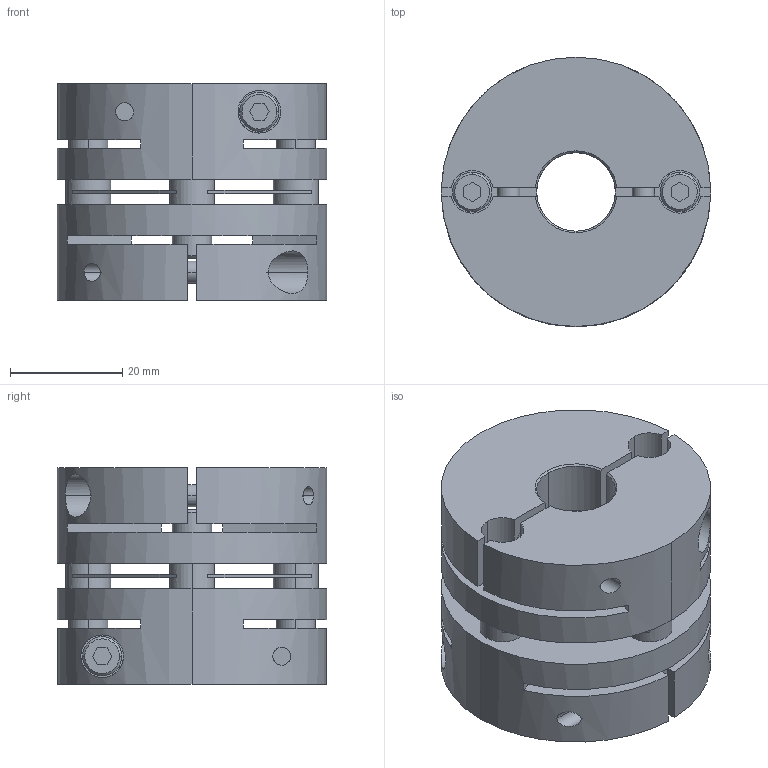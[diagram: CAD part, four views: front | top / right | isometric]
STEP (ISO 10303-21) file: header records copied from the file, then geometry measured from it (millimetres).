
FILE_DESCRIPTION((''),'2;1');
FILE_NAME('LAS-48C-14×24.stp','2013-06-12T09:42:57',(''),(''),'AutoCAD STEP 2000i','AutoCAD 2000i',', , ');
FILE_SCHEMA(('CONFIG_CONTROL_DESIGN'));
Length unit declared in the file: millimetre
Products named in the file (6): LAS-48C-12×19; 忣兜1; LA-4802-D19; LA-4802-D12-1; LA-4802-D12; LAS48-ITA
Assembly tree (5 placements, depth 2):
  LAS-48C-12×19
    忣兜1
    LA-4802-D19
    LA-4802-D12-1
    LA-4802-D12
    LAS48-ITA
Bounding box: 48 x 48 x 38.6 mm (x, y, z)
Volume: 46112.2 mm3; surface area: 21765.2 mm2
Topology: 1 solids, 1 shells, 224 faces, 600 edges, 392 vertices
Faces by surface type: plane 112, cylinder 84, cone 28
Entity records: 7841 total; most frequent: CARTESIAN_POINT 1878, DIRECTION 1256, ORIENTED_EDGE 1200, EDGE_CURVE 600, AXIS2_PLACEMENT_3D 458, VERTEX_POINT 392, VECTOR 340, LINE 340
